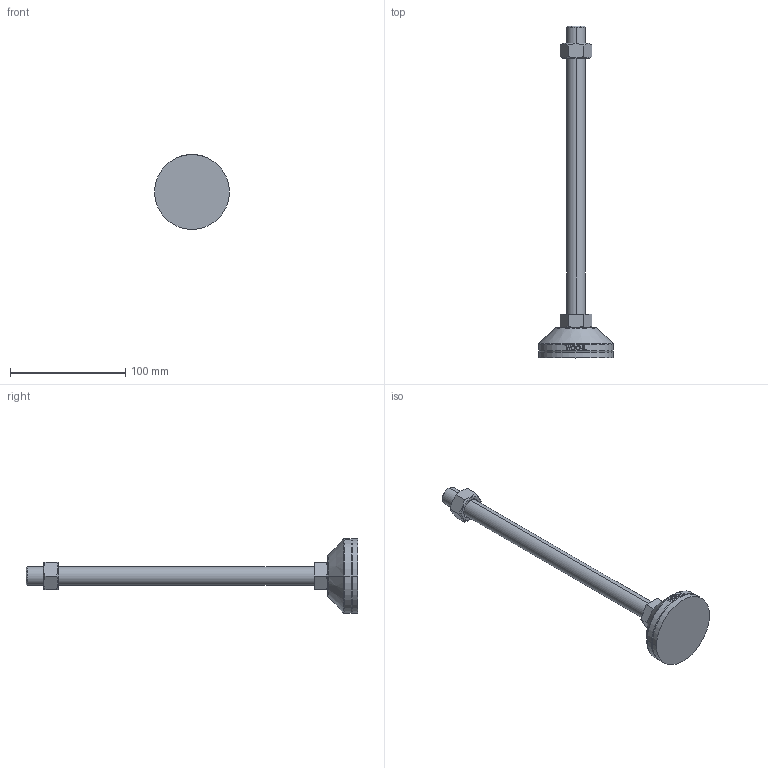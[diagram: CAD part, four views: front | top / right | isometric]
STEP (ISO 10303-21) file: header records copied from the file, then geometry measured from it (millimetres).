
FILE_DESCRIPTION (( 'STEP AP214' ), '1' );
FILE_NAME ('NHNR65-M16-250.step', '2021-01-25T06:17:47', ( '' ), ( '' ), 'SwSTEP 2.0', 'SolidWorks 2019', '' );
FILE_SCHEMA (( 'AUTOMOTIVE_DESIGN' ));
Length unit declared in the file: millimetre
Products named in the file (2): NHNR65-M16-250
Bounding box: 65 x 288 x 65 mm (x, y, z)
Volume: 127824.4 mm3; surface area: 33492.9 mm2
Topology: 4 solids, 4 shells, 105 faces, 239 edges, 152 vertices
Faces by surface type: plane 49, cylinder 18, bspline 16, cone 14, torus 8
Entity records: 4363 total; most frequent: CARTESIAN_POINT 2046, ORIENTED_EDGE 478, DIRECTION 429, EDGE_CURVE 239, AXIS2_PLACEMENT_3D 165, VERTEX_POINT 152, EDGE_LOOP 117, FACE_OUTER_BOUND 105
